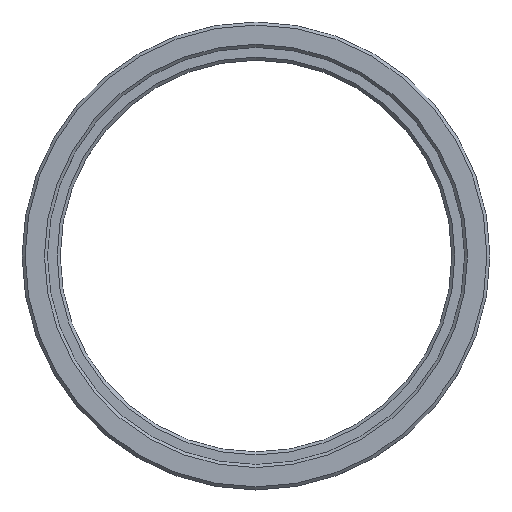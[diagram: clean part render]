
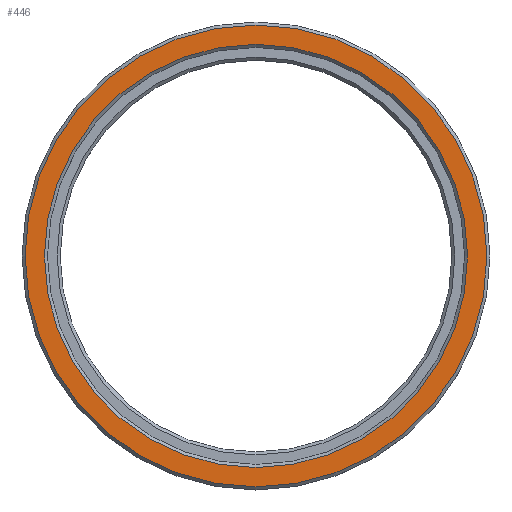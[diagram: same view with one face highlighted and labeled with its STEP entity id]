
A CAD part, top view. The second image highlights one B-rep face of the part: STEP entity #446.
In plain terms, the highlighted planar face has unit normal (0, 0, 1).
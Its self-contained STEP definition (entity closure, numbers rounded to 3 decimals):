
#13 = CARTESIAN_POINT ( 'NONE',  ( -20.8, 0., 4. ) ) ;
#36 = FACE_OUTER_BOUND ( 'NONE', #396, .T. ) ;
#55 = EDGE_CURVE ( 'NONE', #203, #203, #375, .T. ) ;
#60 = AXIS2_PLACEMENT_3D ( 'NONE', #403, #164, #131 ) ;
#74 = EDGE_LOOP ( 'NONE', ( #270 ) ) ;
#77 = DIRECTION ( 'NONE',  ( 0., 0., -1. ) ) ;
#131 = DIRECTION ( 'NONE',  ( -1., 0., 0. ) ) ;
#135 = DIRECTION ( 'NONE',  ( 0., 0., 1. ) ) ;
#164 = DIRECTION ( 'NONE',  ( 0., 0., -1. ) ) ;
#174 = FACE_BOUND ( 'NONE', #74, .T. ) ;
#180 = PLANE ( 'NONE',  #60 ) ;
#203 = VERTEX_POINT ( 'NONE', #13 ) ;
#212 = DIRECTION ( 'NONE',  ( -1., 0., 0. ) ) ;
#270 = ORIENTED_EDGE ( 'NONE', *, *, #55, .T. ) ;
#290 = CARTESIAN_POINT ( 'NONE',  ( 0., 0., 4. ) ) ;
#303 = AXIS2_PLACEMENT_3D ( 'NONE', #290, #77, #322 ) ;
#311 = ORIENTED_EDGE ( 'NONE', *, *, #318, .T. ) ;
#318 = EDGE_CURVE ( 'NONE', #371, #371, #331, .T. ) ;
#322 = DIRECTION ( 'NONE',  ( -1., 0., 0. ) ) ;
#324 = CARTESIAN_POINT ( 'NONE',  ( -22.7, 0., 4. ) ) ;
#331 = CIRCLE ( 'NONE', #442, 22.7 ) ;
#371 = VERTEX_POINT ( 'NONE', #324 ) ;
#375 = CIRCLE ( 'NONE', #303, 20.8 ) ;
#396 = EDGE_LOOP ( 'NONE', ( #311 ) ) ;
#403 = CARTESIAN_POINT ( 'NONE',  ( 0., 23., 4. ) ) ;
#405 = CARTESIAN_POINT ( 'NONE',  ( 0., 0., 4. ) ) ;
#442 = AXIS2_PLACEMENT_3D ( 'NONE', #405, #135, #212 ) ;
#446 = ADVANCED_FACE ( 'NONE', ( #36, #174 ), #180, .F. ) ;
